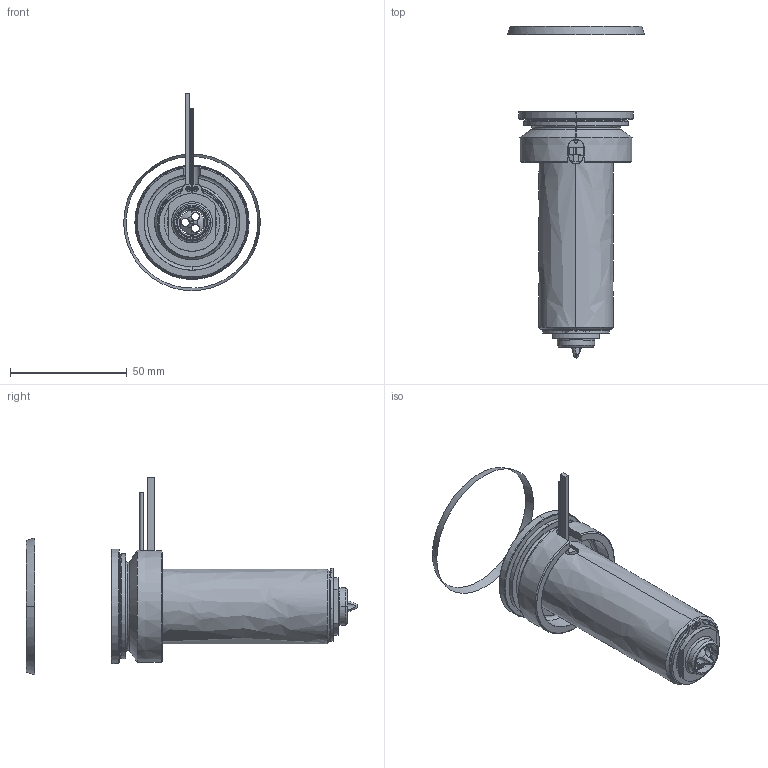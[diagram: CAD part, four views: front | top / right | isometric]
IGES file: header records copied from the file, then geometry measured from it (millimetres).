
Start section: SolidWorks IGES file using analytic representation for surfaces
Global section: file name: C:\Documents and Settings\ws-20\Desktop\TEM\UGEP5002-S-A-1 [Øf-1.36 ØC-13].IGS; native system: SolidWorks 2012; preprocessor: SolidWorks 2012; author: ws-20; date: 120426.102019; units: millimetre
Bounding box: 58.57 x 142.24 x 84.59 mm (x, y, z)
Surface area: 41611.4 mm2 (no closed solid volume)
Topology: 0 solids, 0 shells, 124 faces, 2404 edges, 2404 vertices
Faces by surface type: revolution 81, bspline 43
